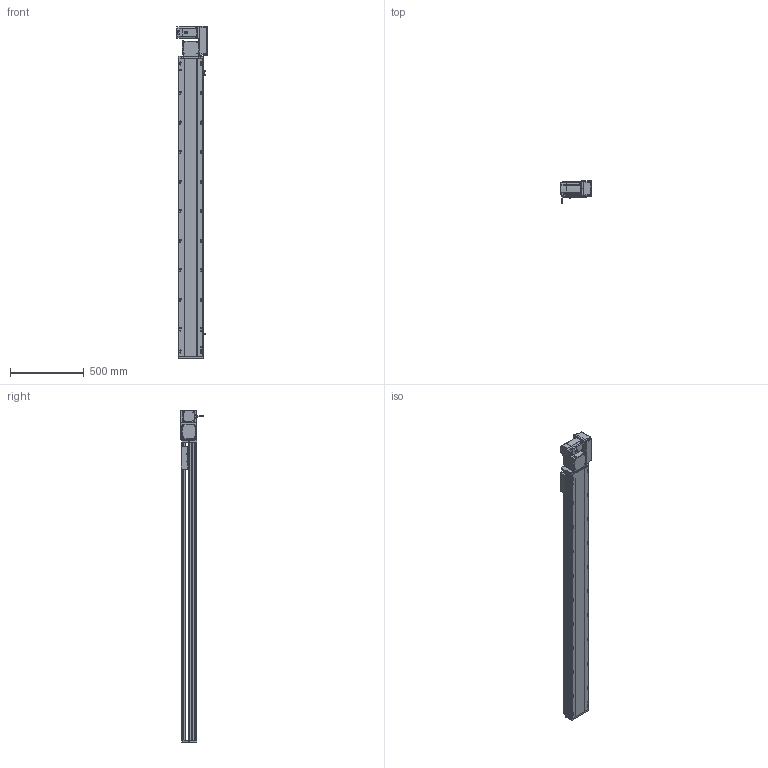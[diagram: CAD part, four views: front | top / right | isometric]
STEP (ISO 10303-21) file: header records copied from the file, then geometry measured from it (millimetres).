
FILE_DESCRIPTION (( 'STEP AP214' ), '1' );
FILE_NAME ('RTB17S-XX-1750-R-M75-C4.STEP', '2025-12-12T01:39:44', ( '' ), ( '' ), 'SwSTEP 2.0', 'SolidWorks 2018', '' );
FILE_SCHEMA (( 'AUTOMOTIVE_DESIGN' ));
Length unit declared in the file: millimetre
Products named in the file (15): RTH13-BL-012覜茼え俋离^RTB17S-賑釱_RTB17S-XX-XX-R-M75-C4; RTB22S-GY-005P^RTB17S-R-々湍釱蚾饜-750W_RTB17S-XX-XX-R-M75-C4; RTB22S-GY-018P^RTB17S-R-々湍釱蚾饜-750W_RTB17S-XX-XX-R-M75-C4; RTB17S-L-004-賑釱^RTB17S-賑釱_RTB17S-XX-XX-R-M75-C4; RTB17S-L-001-耜醱啣^RTB17S-XX-XX-R-M75-C4; RTB22S-GY-017P^RTB17S-R-々湍釱蚾饜-750W_RTB17S-XX-XX-R-M75-C4; RTB17S-L-014-T20-P75--々湍釱^RTB17S-R-々湍釱蚾饜-750W_RTB17S-XX-XX-R-M75-C4; RTB22S-GY-008-M75--萇儂啣^RTB17S-R-々湍釱蚾饜-750W_RTB17S-XX-XX-R-M75-C4; 750W萇儂^RTB17S-XX-XX-R-M75-C4; RTB17S-L-007奻裔^RTB17S-XX-XX-R-M75-C4; RTB17S-賑釱^RTB17S-XX-XX-R-M75-C4; RTB17-R-011菁釱^RTB17S-XX-XX-R-M75-C4; RTB17S-R-々湍釱蚾饜-750W^RTB17S-XX-XX-R-M75-C4; EE672^RTB17S-XX-XX-R-M75-C4; RTB17S-XX-1750-R-M75-C4
Assembly tree (17 placements, depth 3):
  RTB17S-XX-1750-R-M75-C4
    RTB17-R-011菁釱^RTB17S-XX-XX-R-M75-C4
    EE672^RTB17S-XX-XX-R-M75-C4  x3
    RTB17S-L-001-耜醱啣^RTB17S-XX-XX-R-M75-C4
    RTB17S-賑釱^RTB17S-XX-XX-R-M75-C4
      RTB17S-L-004-賑釱^RTB17S-賑釱_RTB17S-XX-XX-R-M75-C4
      RTH13-BL-012覜茼え俋离^RTB17S-賑釱_RTB17S-XX-XX-R-M75-C4
    RTB17S-L-007奻裔^RTB17S-XX-XX-R-M75-C4
    750W萇儂^RTB17S-XX-XX-R-M75-C4
    RTB17S-R-々湍釱蚾饜-750W^RTB17S-XX-XX-R-M75-C4
      RTB17S-L-014-T20-P75--々湍釱^RTB17S-R-々湍釱蚾饜-750W_RTB17S-XX-XX-R-M75-C4
      RTB22S-GY-005P^RTB17S-R-々湍釱蚾饜-750W_RTB17S-XX-XX-R-M75-C4
      RTB22S-GY-017P^RTB17S-R-々湍釱蚾饜-750W_RTB17S-XX-XX-R-M75-C4  x2
      RTB22S-GY-008-M75--萇儂啣^RTB17S-R-々湍釱蚾饜-750W_RTB17S-XX-XX-R-M75-C4
      RTB22S-GY-018P^RTB17S-R-々湍釱蚾饜-750W_RTB17S-XX-XX-R-M75-C4
Bounding box: 207.4 x 152.7 x 2249 mm (x, y, z)
Volume: 16889508.2 mm3; surface area: 2992166 mm2
Topology: 17 solids, 17 shells, 2153 faces, 5998 edges, 3878 vertices
Faces by surface type: plane 978, cylinder 759, bspline 294, cone 110, sphere 8, torus 4
Entity records: 61174 total; most frequent: CARTESIAN_POINT 18062, ORIENTED_EDGE 8840, DIRECTION 8222, EDGE_CURVE 4420, AXIS2_PLACEMENT_3D 2898, VERTEX_POINT 2882, LINE 2426, VECTOR 2426
